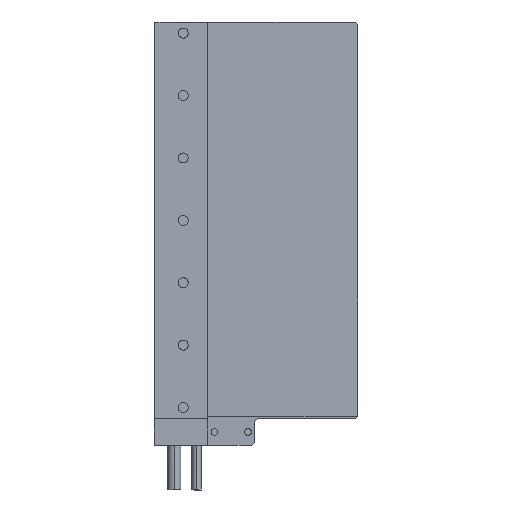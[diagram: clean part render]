
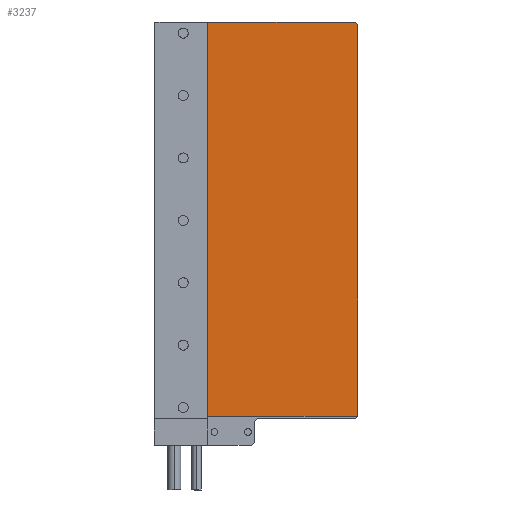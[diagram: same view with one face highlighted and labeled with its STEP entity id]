
A CAD part, front view. The second image highlights one B-rep face of the part: STEP entity #3237.
In plain terms, the highlighted planar face has unit normal (0, -1, 0).
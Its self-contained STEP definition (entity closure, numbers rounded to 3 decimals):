
#66 = ORIENTED_EDGE ( 'NONE', *, *, #2572, .T. ) ;
#127 = ORIENTED_EDGE ( 'NONE', *, *, #2542, .F. ) ;
#139 = DIRECTION ( 'NONE',  ( 1., 0., 0. ) ) ;
#181 = VERTEX_POINT ( 'NONE', #5041 ) ;
#311 = CARTESIAN_POINT ( 'NONE',  ( 129.502, 99.466, 226.034 ) ) ;
#333 = DIRECTION ( 'NONE',  ( -1., 0., 0. ) ) ;
#379 = CARTESIAN_POINT ( 'NONE',  ( 64.202, 99.466, 36.034 ) ) ;
#411 = AXIS2_PLACEMENT_3D ( 'NONE', #1975, #4862, #5270 ) ;
#440 = DIRECTION ( 'NONE',  ( 0., -1., 0. ) ) ;
#548 = VECTOR ( 'NONE', #333, 1000. ) ;
#782 = DIRECTION ( 'NONE',  ( 0., 0., 1. ) ) ;
#953 = EDGE_CURVE ( 'NONE', #181, #5361, #1653, .T. ) ;
#1079 = LINE ( 'NONE', #1662, #548 ) ;
#1164 = EDGE_LOOP ( 'NONE', ( #1827, #4335, #66, #127, #4708, #2576 ) ) ;
#1190 = VERTEX_POINT ( 'NONE', #5200 ) ;
#1357 = PLANE ( 'NONE',  #3151 ) ;
#1452 = EDGE_CURVE ( 'NONE', #4419, #2455, #5189, .T. ) ;
#1653 = CIRCLE ( 'NONE', #411, 2. ) ;
#1662 = CARTESIAN_POINT ( 'NONE',  ( 131.502, 99.466, 226.034 ) ) ;
#1727 = VECTOR ( 'NONE', #782, 1000. ) ;
#1827 = ORIENTED_EDGE ( 'NONE', *, *, #2551, .T. ) ;
#1975 = CARTESIAN_POINT ( 'NONE',  ( 129.502, 99.466, 224.034 ) ) ;
#2078 = VERTEX_POINT ( 'NONE', #2727 ) ;
#2108 = DIRECTION ( 'NONE',  ( -1., 0., 0. ) ) ;
#2428 = CARTESIAN_POINT ( 'NONE',  ( 131.502, 99.466, 36.034 ) ) ;
#2455 = VERTEX_POINT ( 'NONE', #5246 ) ;
#2542 = EDGE_CURVE ( 'NONE', #1190, #2078, #3283, .T. ) ;
#2551 = EDGE_CURVE ( 'NONE', #2455, #181, #4830, .T. ) ;
#2572 = EDGE_CURVE ( 'NONE', #5361, #2078, #1079, .T. ) ;
#2576 = ORIENTED_EDGE ( 'NONE', *, *, #1452, .T. ) ;
#2601 = DIRECTION ( 'NONE',  ( 0., 1., 0. ) ) ;
#2727 = CARTESIAN_POINT ( 'NONE',  ( 64.202, 99.466, 226.034 ) ) ;
#2927 = CARTESIAN_POINT ( 'NONE',  ( 129.502, 99.466, 50.034 ) ) ;
#2967 = CARTESIAN_POINT ( 'NONE',  ( 131.234, 99.466, 49.034 ) ) ;
#2972 = CARTESIAN_POINT ( 'NONE',  ( 131.502, 99.466, 49.034 ) ) ;
#2981 = DIRECTION ( 'NONE',  ( 0., 0., 1. ) ) ;
#3151 = AXIS2_PLACEMENT_3D ( 'NONE', #5074, #2601, #139 ) ;
#3237 = ADVANCED_FACE ( 'NONE', ( #4246 ), #1357, .F. ) ;
#3283 = LINE ( 'NONE', #379, #1727 ) ;
#3669 = VECTOR ( 'NONE', #5298, 1000. ) ;
#3747 = EDGE_CURVE ( 'NONE', #4419, #1190, #4047, .T. ) ;
#4047 = LINE ( 'NONE', #2972, #5127 ) ;
#4060 = AXIS2_PLACEMENT_3D ( 'NONE', #2927, #440, #2981 ) ;
#4246 = FACE_OUTER_BOUND ( 'NONE', #1164, .T. ) ;
#4335 = ORIENTED_EDGE ( 'NONE', *, *, #953, .T. ) ;
#4419 = VERTEX_POINT ( 'NONE', #2967 ) ;
#4708 = ORIENTED_EDGE ( 'NONE', *, *, #3747, .F. ) ;
#4830 = LINE ( 'NONE', #2428, #3669 ) ;
#4862 = DIRECTION ( 'NONE',  ( 0., -1., 0. ) ) ;
#5041 = CARTESIAN_POINT ( 'NONE',  ( 131.502, 99.466, 224.034 ) ) ;
#5074 = CARTESIAN_POINT ( 'NONE',  ( 131.502, 99.466, 36.034 ) ) ;
#5127 = VECTOR ( 'NONE', #2108, 1000. ) ;
#5189 = CIRCLE ( 'NONE', #4060, 2. ) ;
#5200 = CARTESIAN_POINT ( 'NONE',  ( 64.202, 99.466, 49.034 ) ) ;
#5246 = CARTESIAN_POINT ( 'NONE',  ( 131.502, 99.466, 50.034 ) ) ;
#5270 = DIRECTION ( 'NONE',  ( 1., 0., 0. ) ) ;
#5298 = DIRECTION ( 'NONE',  ( 0., 0., 1. ) ) ;
#5361 = VERTEX_POINT ( 'NONE', #311 ) ;
